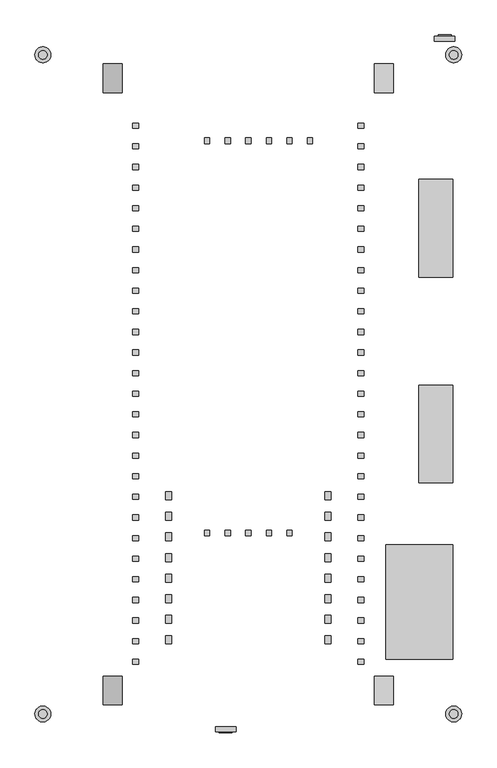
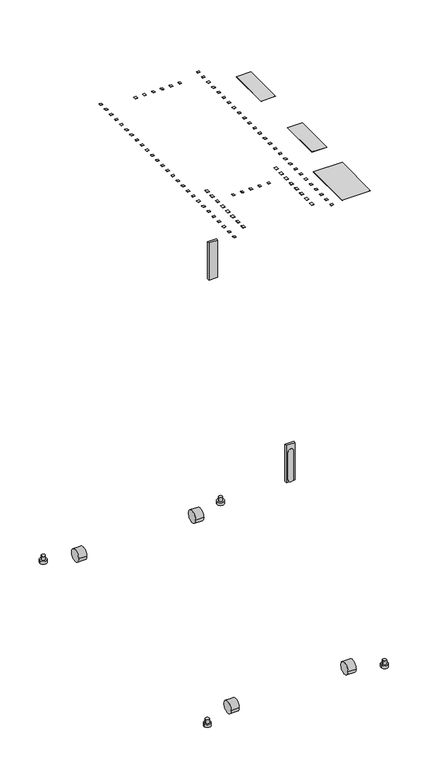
"""IFC4 building model written with IfcOpenShell, lengths in millimetres: proxy geometry, AR3350_NetShelter_SX_Series_Rack_Enclosure_Schneider_Electric_BIM_Model : AR3350 - NetShelter SX, 42U, 750mm Wide X 1200mm Depth."""

from ifc_helpers import new_model, si_unit, point, frame, frame_2d, origin, place, context, project, spatial, polyline, circle_curve, trimmed, segment, composite_curve, outline, extrude, source, transform, mapped, element, save
from ifc_brep_helpers import plane_surface, cylinder_surface, advanced_brep


def mechanical_equipment_0401260e(model_context):
    return source(origin(), model_context, "Body", "SolidModel", [
        extrude(outline(polyline([(241.5, -547.0), (241.5, -347.0), (358.5, -347.0), (358.5, -547.0), (241.5, -547.0)])), frame((0.0, 0.0, 1991.0), z_axis=(0.0, 0.0, 1.0), x_axis=(1.0, 0.0, 0.0)), (0.0, 0.0, 1.0), 1.0),
        extrude(outline(polyline([(358.5, -238.0), (298.5, -238.0), (298.5, -67.0), (358.5, -67.0), (358.5, -238.0)])), frame((0.0, 0.0, 1991.0), z_axis=(0.0, 0.0, 1.0), x_axis=(1.0, 0.0, 0.0)), (0.0, 0.0, 1.0), 1.0),
        extrude(outline(polyline([(358.5, 122.0), (298.5, 122.0), (298.5, 293.0), (358.5, 293.0), (358.5, 122.0)])), frame((0.0, 0.0, 1991.0), z_axis=(0.0, 0.0, 1.0), x_axis=(1.0, 0.0, 0.0)), (0.0, 0.0, 1.0), 1.0),
        extrude(outline(composite_curve([segment(trimmed(circle_curve(frame_2d((470.5, 25.0)), 25.0), [point((495.5, 25.0))], [point((445.5, 25.0))], False, "CARTESIAN"), True, "CONTINUOUS"), segment(trimmed(circle_curve(frame_2d((470.5, 25.0)), 25.0), [point((445.5, 25.0))], [point((495.5, 25.0))], False, "CARTESIAN"), True, "CONTINUOUS")], self_intersect=False)), frame((-254.0, 0.0, 0.0), z_axis=(1.0, 0.0, 0.0), x_axis=(0.0, 1.0, 0.0)), (0.0, 0.0, 1.0), 33.0),
        extrude(outline(composite_curve([segment(trimmed(circle_curve(frame_2d((470.5, 25.0)), 25.0), [point((495.5, 25.0))], [point((445.5, 25.0))], False, "CARTESIAN"), True, "CONTINUOUS"), segment(trimmed(circle_curve(frame_2d((470.5, 25.0)), 25.0), [point((445.5, 25.0))], [point((495.5, 25.0))], False, "CARTESIAN"), True, "CONTINUOUS")], self_intersect=False)), frame((221.0, 0.0, 0.0), z_axis=(1.0, 0.0, 0.0), x_axis=(0.0, 1.0, 0.0)), (0.0, 0.0, 1.0), 33.0),
        extrude(outline(composite_curve([segment(trimmed(circle_curve(frame_2d((-601.5, 25.0)), 25.0), [point((-626.5, 25.0))], [point((-576.5, 25.0))], False, "CARTESIAN"), True, "CONTINUOUS"), segment(trimmed(circle_curve(frame_2d((-601.5, 25.0)), 25.0), [point((-576.5, 25.0))], [point((-626.5, 25.0))], False, "CARTESIAN"), True, "CONTINUOUS")], self_intersect=False)), frame((-254.0, 0.0, 0.0), z_axis=(1.0, 0.0, 0.0), x_axis=(0.0, 1.0, 0.0)), (0.0, 0.0, 1.0), 33.0),
        extrude(outline(composite_curve([segment(trimmed(circle_curve(frame_2d((-601.5, 25.0)), 25.0), [point((-626.5, 25.0))], [point((-576.5, 25.0))], False, "CARTESIAN"), True, "CONTINUOUS"), segment(trimmed(circle_curve(frame_2d((-601.5, 25.0)), 25.0), [point((-576.5, 25.0))], [point((-626.5, 25.0))], False, "CARTESIAN"), True, "CONTINUOUS")], self_intersect=False)), frame((221.0, 0.0, 0.0), z_axis=(1.0, 0.0, 0.0), x_axis=(0.0, 1.0, 0.0)), (0.0, 0.0, 1.0), 33.0),
        advanced_brep(
        [(326.3368526, 544.0499756, 1123.0590115), (362.0, 544.0499756, 1123.0590115), (362.0, 544.0499756, 963.0), (347.3677154, 544.0499756, 963.0), (348.4393893, 544.0499756, 963.3154611), (350.3725006, 544.0499756, 964.3170777), (352.071341, 544.0499756, 965.6659795), (355.4225766, 544.0499756, 973.9455005), (355.4225766, 544.0499756, 979.9131415), (355.4225766, 544.0499756, 981.4978364), (355.4225766, 544.0499756, 1091.5384088), (332.9142777, 544.0499756, 1091.5384088), (332.9142777, 544.0499756, 981.4978364), (332.9142777, 544.0499756, 979.9131415), (332.9142777, 544.0499756, 973.9455005), (336.2655133, 544.0499756, 965.6659795), (337.9643537, 544.0499756, 964.3170777), (339.8974651, 544.0499756, 963.3154611), (340.969139, 544.0499756, 963.0), (326.3368526, 544.0499756, 963.0), (326.3368526, 535.0499756, 1123.0590115), (326.3368526, 535.0499756, 963.0), (362.0, 535.0499756, 963.0), (362.0, 535.0499756, 1123.0590115), (352.071341, 546.0499756, 965.6659795), (350.3725006, 546.0499756, 964.3170777), (348.4393893, 546.0499756, 963.3154611), (346.3450029, 546.0499756, 962.6989514), (344.1684272, 546.0499756, 962.4908285), (341.9918515, 546.0499756, 962.6989514), (339.8974651, 546.0499756, 963.3154611), (337.9643537, 546.0499756, 964.3170777), (336.2655133, 546.0499756, 965.6659795), (332.9142777, 546.0499756, 973.9455005), (332.9142777, 546.0499756, 979.9131415), (332.9142777, 546.0499756, 981.4978364), (332.9142777, 546.0499756, 1091.5384088), (355.4225766, 546.0499756, 1091.5384088), (355.4225766, 546.0499756, 981.4978364), (355.4225766, 546.0499756, 979.9131415), (355.4225766, 546.0499756, 973.9455005), (341.9918515, 544.0499756, 962.6989514), (344.1684272, 544.0499756, 962.4908285), (346.3450029, 544.0499756, 962.6989514)],
        [
            (0, 1),
            (1, 2),
            (2, 3),
            (3, 4),
            (4, 5),
            (5, 6),
            (6, 7, circle_curve(frame((342.9998766, 544.0499756, 974.1557506), z_axis=(0.0, -1.0, 0.0), x_axis=(-1.0, 0.0, 0.0)), 12.4244791)),
            (7, 8),
            (8, 9),
            (9, 10),
            (10, 11, circle_curve(frame((344.1684272, 544.0499756, 1091.5384088), z_axis=(0.0, -1.0, 0.0), x_axis=(-1.0, 0.0, 0.0)), 11.2541494)),
            (11, 12),
            (12, 13),
            (13, 14),
            (14, 15, circle_curve(frame((345.3369777, 544.0499756, 974.1557506), z_axis=(0.0, -1.0, 0.0), x_axis=(-1.0, 0.0, 0.0)), 12.4244791)),
            (15, 16),
            (16, 17),
            (17, 18),
            (18, 19),
            (19, 0),
            (20, 21),
            (21, 22),
            (22, 23),
            (23, 20),
            (0, 20),
            (23, 1),
            (22, 2),
            (21, 19),
            (18, 3),
            (24, 25),
            (25, 26),
            (26, 27),
            (27, 28),
            (28, 29),
            (29, 30),
            (30, 31),
            (31, 32),
            (32, 33, circle_curve(frame((345.3369777, 546.0499756, 974.1557506), z_axis=(0.0, 1.0, 0.0), x_axis=(-1.0, 0.0, 0.0)), 12.4244791)),
            (33, 34),
            (34, 35),
            (35, 36),
            (36, 37, circle_curve(frame((344.1684272, 546.0499756, 1091.5384088), z_axis=(0.0, 1.0, 0.0), x_axis=(-1.0, 0.0, 0.0)), 11.2541494)),
            (37, 38),
            (38, 39),
            (39, 40),
            (40, 24, circle_curve(frame((342.9998766, 546.0499756, 974.1557506), z_axis=(0.0, 1.0, 0.0), x_axis=(-1.0, 0.0, 0.0)), 12.4244791)),
            (41, 42),
            (42, 43),
            (43, 3),
            (18, 41),
            (24, 6),
            (5, 25),
            (4, 26),
            (43, 27),
            (42, 28),
            (41, 29),
            (17, 30),
            (16, 31),
            (15, 32),
            (14, 33),
            (13, 34),
            (12, 35),
            (11, 36),
            (10, 37),
            (9, 38),
            (8, 39),
            (7, 40),
        ],
        [
            plane_surface(frame((362.0, 544.0499756, 1123.0590115), z_axis=(0.0, 1.0, 0.0), x_axis=(1.0, 0.0, 0.0))),
            plane_surface(frame((362.0, 535.0499756, 1123.0590115), z_axis=(0.0, -1.0, 0.0), x_axis=(-1.0, 0.0, 0.0))),
            plane_surface(frame((326.3368526, 544.0499756, 1123.0590115), z_axis=(0.0, 0.0, 1.0), x_axis=(0.0, -1.0, 0.0))),
            plane_surface(frame((362.0, 544.0499756, 1123.0590115), z_axis=(1.0, 0.0, 0.0), x_axis=(0.0, -1.0, 0.0))),
            plane_surface(frame((362.0, 544.0499756, 963.0), z_axis=(0.0, 0.0, -1.0), x_axis=(0.0, -1.0, 0.0))),
            plane_surface(frame((326.3368526, 544.0499756, 963.0), z_axis=(-1.0, 0.0, 0.0), x_axis=(0.0, -1.0, 0.0))),
            plane_surface(frame((350.3725006, 546.0499756, 964.3170777), z_axis=(0.0, 1.0, 0.0), x_axis=(-0.7831506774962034, 0.0, -0.6218319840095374))),
            plane_surface(frame((350.3725006, 544.0499756, 964.3170777), z_axis=(0.0, -1.0, 0.0), x_axis=(0.7831506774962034, 0.0, 0.6218319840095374))),
            plane_surface(frame((352.071341, 546.0499756, 965.6659795), z_axis=(0.6218319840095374, 0.0, -0.7831506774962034), x_axis=(0.0, -1.0, 0.0))),
            plane_surface(frame((350.3725006, 546.0499756, 964.3170777), z_axis=(0.4600502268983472, 0.0, -0.8878928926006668), x_axis=(0.0, -1.0, 0.0))),
            plane_surface(frame((348.4393893, 546.0499756, 963.3154611), z_axis=(0.28238288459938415, 0.0, -0.9593017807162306), x_axis=(0.0, -1.0, 0.0))),
            plane_surface(frame((346.3450029, 546.0499756, 962.6989514), z_axis=(0.09518525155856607, 0.0, -0.9954595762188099), x_axis=(0.0, -1.0, 0.0))),
            plane_surface(frame((344.1684272, 546.0499756, 962.4908285), z_axis=(-0.09518525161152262, 0.0, -0.9954595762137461), x_axis=(0.0, -1.0, 0.0))),
            plane_surface(frame((341.9918515, 546.0499756, 962.6989514), z_axis=(-0.2823828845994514, 0.0, -0.9593017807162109), x_axis=(0.0, -1.0, 0.0))),
            plane_surface(frame((339.8974651, 546.0499756, 963.3154611), z_axis=(-0.4600502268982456, 0.0, -0.8878928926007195), x_axis=(0.0, -1.0, 0.0))),
            plane_surface(frame((337.9643537, 546.0499756, 964.3170777), z_axis=(-0.6218319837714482, 0.0, -0.7831506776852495), x_axis=(0.0, -1.0, 0.0))),
            cylinder_surface(frame((345.3369777, 544.0499756, 974.1557506), z_axis=(0.0, 1.0, 0.0), x_axis=(-1.0, 0.0, 0.0)), 12.4244791),
            plane_surface(frame((332.9142777, 546.0499756, 973.9455005), z_axis=(-1.0, 0.0, 0.0), x_axis=(0.0, -1.0, 0.0))),
            plane_surface(frame((332.9142777, 546.0499756, 979.9131415), z_axis=(-1.0, 0.0, 0.0), x_axis=(0.0, -1.0, 0.0))),
            plane_surface(frame((332.9142777, 546.0499756, 981.4978364), z_axis=(-1.0, 0.0, 0.0), x_axis=(0.0, -1.0, 0.0))),
            cylinder_surface(frame((344.1684272, 544.0499756, 1091.5384088), z_axis=(0.0, 1.0, 0.0), x_axis=(-1.0, 0.0, 0.0)), 11.2541494),
            plane_surface(frame((355.4225766, 546.0499756, 1091.5384088), z_axis=(1.0, 0.0, -1.3564306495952e-10), x_axis=(0.0, -1.0, 0.0))),
            plane_surface(frame((355.4225766, 546.0499756, 981.4978364), z_axis=(1.0, 0.0, 0.0), x_axis=(0.0, -1.0, 0.0))),
            plane_surface(frame((355.4225766, 546.0499756, 979.9131415), z_axis=(1.0, 0.0, 0.0), x_axis=(0.0, -1.0, 0.0))),
            cylinder_surface(frame((342.9998766, 544.0499756, 974.1557506), z_axis=(0.0, 1.0, 0.0), x_axis=(-1.0, 0.0, 0.0)), 12.4244791),
        ],
        [
            (0, [[1, 2, 3, 4, 5, 6, 7, 8, 9, 10, 11, 12, 13, 14, 15, 16, 17, 18, 19, 20]]),
            (1, [[21, 22, 23, 24]]),
            (2, [[-1, 25, -24, 26]]),
            (3, [[-2, -26, -23, 27]]),
            (4, [[-22, 28, -19, 29, -3, -27]]),
            (5, [[-20, -28, -21, -25]]),
            (6, [[30, 31, 32, 33, 34, 35, 36, 37, 38, 39, 40, 41, 42, 43, 44, 45, 46]]),
            (7, [[47, 48, 49, -29, 50]]),
            (8, [[-30, 51, -6, 52]]),
            (9, [[-31, -52, -5, 53]]),
            (10, [[-32, -53, -4, -49, 54]]),
            (11, [[-33, -54, -48, 55]]),
            (12, [[-34, -55, -47, 56]]),
            (13, [[-35, -56, -50, -18, 57]]),
            (14, [[-36, -57, -17, 58]]),
            (15, [[-37, -58, -16, 59]]),
            (16, [[-38, -59, -15, 60]]),
            (17, [[-39, -60, -14, 61]]),
            (18, [[-40, -61, -13, 62]]),
            (19, [[-41, -62, -12, 63]]),
            (20, [[-42, -63, -11, 64]]),
            (21, [[-43, -64, -10, 65]]),
            (22, [[-44, -65, -9, 66]]),
            (23, [[-45, -66, -8, 67]]),
            (24, [[-46, -67, -7, -51]]),
        ],
    ),
        extrude(outline(composite_curve([segment(trimmed(circle_curve(frame_2d((360.0, 511.5)), 7.5), [point((367.5, 511.5))], [point((352.5, 511.5))], False, "CARTESIAN"), True, "CONTINUOUS"), segment(trimmed(circle_curve(frame_2d((360.0, 511.5)), 7.5), [point((352.5, 511.5))], [point((367.5, 511.5))], False, "CARTESIAN"), True, "CONTINUOUS")], self_intersect=False)), frame((0.0, 0.0, 21.0), z_axis=(0.0, 0.0, 1.0), x_axis=(1.0, 0.0, 0.0)), (0.0, 0.0, 1.0), 16.0),
        extrude(outline(composite_curve([segment(trimmed(circle_curve(frame_2d((360.0, 511.5)), 14.0), [point((374.0, 511.5))], [point((346.0, 511.5))], False, "CARTESIAN"), True, "CONTINUOUS"), segment(trimmed(circle_curve(frame_2d((360.0, 511.5)), 14.0), [point((346.0, 511.5))], [point((374.0, 511.5))], False, "CARTESIAN"), True, "CONTINUOUS")], self_intersect=False)), frame((0.0, 0.0, 9.0), z_axis=(0.0, 0.0, 1.0), x_axis=(1.0, 0.0, 0.0)), (0.0, 0.0, 1.0), 12.0),
        extrude(outline(composite_curve([segment(trimmed(circle_curve(frame_2d((-360.0, 511.5)), 7.5), [point((-367.5, 511.5))], [point((-352.5, 511.5))], False, "CARTESIAN"), True, "CONTINUOUS"), segment(trimmed(circle_curve(frame_2d((-360.0, 511.5)), 7.5), [point((-352.5, 511.5))], [point((-367.5, 511.5))], False, "CARTESIAN"), True, "CONTINUOUS")], self_intersect=False)), frame((0.0, 0.0, 21.0), z_axis=(0.0, 0.0, 1.0), x_axis=(1.0, 0.0, 0.0)), (0.0, 0.0, 1.0), 16.0),
        extrude(outline(composite_curve([segment(trimmed(circle_curve(frame_2d((-360.0, 511.5)), 14.0), [point((-374.0, 511.5))], [point((-346.0, 511.5))], False, "CARTESIAN"), True, "CONTINUOUS"), segment(trimmed(circle_curve(frame_2d((-360.0, 511.5)), 14.0), [point((-346.0, 511.5))], [point((-374.0, 511.5))], False, "CARTESIAN"), True, "CONTINUOUS")], self_intersect=False)), frame((0.0, 0.0, 9.0), z_axis=(0.0, 0.0, 1.0), x_axis=(1.0, 0.0, 0.0)), (0.0, 0.0, 1.0), 12.0),
        extrude(outline(composite_curve([segment(trimmed(circle_curve(frame_2d((360.0, -642.5)), 7.5), [point((367.5, -642.5))], [point((352.5, -642.5))], False, "CARTESIAN"), True, "CONTINUOUS"), segment(trimmed(circle_curve(frame_2d((360.0, -642.5)), 7.5), [point((352.5, -642.5))], [point((367.5, -642.5))], False, "CARTESIAN"), True, "CONTINUOUS")], self_intersect=False)), frame((0.0, 0.0, 21.0), z_axis=(0.0, 0.0, 1.0), x_axis=(1.0, 0.0, 0.0)), (0.0, 0.0, 1.0), 16.0),
        extrude(outline(composite_curve([segment(trimmed(circle_curve(frame_2d((360.0, -642.5)), 14.0), [point((374.0, -642.5))], [point((346.0, -642.5))], False, "CARTESIAN"), True, "CONTINUOUS"), segment(trimmed(circle_curve(frame_2d((360.0, -642.5)), 14.0), [point((346.0, -642.5))], [point((374.0, -642.5))], False, "CARTESIAN"), True, "CONTINUOUS")], self_intersect=False)), frame((0.0, 0.0, 9.0), z_axis=(0.0, 0.0, 1.0), x_axis=(1.0, 0.0, 0.0)), (0.0, 0.0, 1.0), 12.0),
        advanced_brep(
        [(-367.5, -642.5, 37.0), (-352.5, -642.5, 37.0), (-352.5, -642.5, 21.0), (-367.5, -642.5, 21.0), (-374.0, -642.5, 21.0), (-346.0, -642.5, 21.0), (-374.0, -642.5, 9.0), (-346.0, -642.5, 9.0)],
        [
            (0, 1, circle_curve(frame((-360.0, -642.5, 37.0), z_axis=(0.0, 0.0, 1.0), x_axis=(1.0, 0.0, 0.0)), 7.5)),
            (1, 0, circle_curve(frame((-360.0, -642.5, 37.0), z_axis=(0.0, 0.0, 1.0), x_axis=(1.0, 0.0, 0.0)), 7.5)),
            (1, 2),
            (2, 3, circle_curve(frame((-360.0, -642.5, 21.0), z_axis=(0.0, 0.0, 1.0), x_axis=(1.0, 0.0, 0.0)), 7.5)),
            (3, 0),
            (3, 2, circle_curve(frame((-360.0, -642.5, 21.0), z_axis=(0.0, 0.0, 1.0), x_axis=(1.0, 0.0, 0.0)), 7.5)),
            (4, 5, circle_curve(frame((-360.0, -642.5, 21.0), z_axis=(0.0, 0.0, 1.0), x_axis=(1.0, 0.0, 0.0)), 14.0)),
            (5, 4, circle_curve(frame((-360.0, -642.5, 21.0), z_axis=(0.0, 0.0, 1.0), x_axis=(1.0, 0.0, 0.0)), 14.0)),
            (6, 7, circle_curve(frame((-360.0, -642.5, 9.0), z_axis=(0.0, 0.0, -1.0), x_axis=(1.0, 0.0, 0.0)), 14.0)),
            (7, 6, circle_curve(frame((-360.0, -642.5, 9.0), z_axis=(0.0, 0.0, -1.0), x_axis=(1.0, 0.0, 0.0)), 14.0)),
            (5, 7),
            (6, 4),
        ],
        [
            plane_surface(frame((-352.5, -642.5, 37.0), z_axis=(0.0, 0.0, 1.0), x_axis=(0.0, -1.0, 0.0))),
            cylinder_surface(frame((-360.0, -642.5, 21.0), z_axis=(0.0, 0.0, 1.0), x_axis=(1.0, 0.0, 0.0)), 7.5),
            plane_surface(frame((-346.0, -642.5, 21.0), z_axis=(0.0, 0.0, 1.0), x_axis=(0.0, -1.0, 0.0))),
            plane_surface(frame((-346.0, -642.5, 9.0), z_axis=(0.0, 0.0, -1.0), x_axis=(0.0, 1.0, 0.0))),
            cylinder_surface(frame((-360.0, -642.5, 9.0), z_axis=(0.0, 0.0, 1.0), x_axis=(1.0, 0.0, 0.0)), 14.0),
        ],
        [
            (0, [[1, 2]]),
            (1, [[3, 4, 5, -2]]),
            (1, [[-5, 6, -3, -1]]),
            (2, [[7, 8], [-6, -4]]),
            (3, [[9, 10]]),
            (4, [[11, -9, 12, -8]]),
            (4, [[-12, -10, -11, -7]]),
        ],
    ),
        advanced_brep(
        [(-57.4775271, -673.9999881, 1122.0590115), (-57.4775271, -673.9999881, 962.0), (-42.8452407, -673.9999881, 962.0), (-43.9169146, -673.9999881, 962.3154611), (-45.8500259, -673.9999881, 963.3170777), (-47.5488663, -673.9999881, 964.6659795), (-50.900102, -673.9999881, 972.9455005), (-50.900102, -673.9999881, 978.9131415), (-50.900102, -673.9999881, 980.4978364), (-50.900102, -673.9999881, 1090.5384088), (-28.391803, -673.9999881, 1090.5384088), (-28.3918031, -673.9999881, 980.4978364), (-28.3918031, -673.9999881, 978.9131415), (-28.3918031, -673.9999881, 972.9455005), (-31.7430387, -673.9999881, 964.6659794), (-33.4418791, -673.9999881, 963.3170777), (-35.3749904, -673.9999881, 962.3154611), (-36.4466643, -673.9999881, 962.0), (-21.8143797, -673.9999881, 962.0), (-21.8143797, -673.9999881, 1122.0590115), (-57.4775271, -664.9999881, 1122.0590115), (-21.8143797, -664.9999881, 1122.0590115), (-21.8143797, -664.9999881, 962.0), (-57.4775271, -664.9999881, 962.0), (-31.7430387, -675.9999881, 964.6659794), (-28.3918031, -675.9999881, 972.9455005), (-28.3918031, -675.9999881, 978.9131415), (-28.3918031, -675.9999881, 980.4978364), (-28.391803, -675.9999881, 1090.5384088), (-50.9001019, -675.9999881, 1090.5384088), (-50.900102, -675.9999881, 980.4978364), (-50.900102, -675.9999881, 978.9131415), (-50.900102, -675.9999881, 972.9455005), (-47.5488663, -675.9999881, 964.6659795), (-45.8500259, -675.9999881, 963.3170777), (-43.9169146, -675.9999881, 962.3154611), (-41.8225282, -675.9999881, 961.6989514), (-39.6459525, -675.9999881, 961.4908285), (-37.4693768, -675.9999881, 961.6989514), (-35.3749904, -675.9999881, 962.3154611), (-33.4418791, -675.9999881, 963.3170777), (-41.8225282, -673.9999881, 961.6989514), (-37.4693768, -673.9999881, 961.6989514), (-39.6459525, -673.9999881, 961.4908285)],
        [
            (0, 1),
            (1, 2),
            (2, 3),
            (3, 4),
            (4, 5),
            (5, 6, circle_curve(frame((-38.477402, -673.9999881, 973.1557506), z_axis=(0.0, 1.0, 0.0), x_axis=(-1.0, 0.0, 0.0)), 12.4244791)),
            (6, 7),
            (7, 8),
            (8, 9),
            (9, 10, circle_curve(frame((-39.6459525, -673.9999881, 1090.5384088), z_axis=(0.0, 1.0, 0.0), x_axis=(-1.0, 0.0, 0.0)), 11.2541494)),
            (10, 11),
            (11, 12),
            (12, 13),
            (13, 14, circle_curve(frame((-40.814503, -673.9999881, 973.1557506), z_axis=(0.0, 1.0, 0.0), x_axis=(-1.0, 0.0, 0.0)), 12.4244791)),
            (14, 15),
            (15, 16),
            (16, 17),
            (17, 18),
            (18, 19),
            (19, 0),
            (20, 21),
            (21, 22),
            (22, 23),
            (23, 20),
            (19, 21),
            (20, 0),
            (18, 22),
            (17, 2),
            (1, 23),
            (24, 25, circle_curve(frame((-40.814503, -675.9999881, 973.1557506), z_axis=(0.0, -1.0, 0.0), x_axis=(-1.0, 0.0, 0.0)), 12.4244791)),
            (25, 26),
            (26, 27),
            (27, 28),
            (28, 29, circle_curve(frame((-39.6459525, -675.9999881, 1090.5384088), z_axis=(0.0, -1.0, 0.0), x_axis=(-1.0, 0.0, 0.0)), 11.2541494)),
            (29, 30),
            (30, 31),
            (31, 32),
            (32, 33, circle_curve(frame((-38.477402, -675.9999881, 973.1557506), z_axis=(0.0, -1.0, 0.0), x_axis=(-1.0, 0.0, 0.0)), 12.4244791)),
            (33, 34),
            (34, 35),
            (35, 36),
            (36, 37),
            (37, 38),
            (38, 39),
            (39, 40),
            (40, 24),
            (41, 2),
            (17, 42),
            (42, 43),
            (43, 41),
            (40, 15),
            (14, 24),
            (39, 16),
            (38, 42),
            (37, 43),
            (36, 41),
            (35, 3),
            (34, 4),
            (33, 5),
            (32, 6),
            (31, 7),
            (30, 8),
            (29, 9),
            (28, 10),
            (27, 11),
            (26, 12),
            (25, 13),
        ],
        [
            plane_surface(frame((-21.8143797, -673.9999881, 1122.0590115), z_axis=(0.0, -1.0, 0.0), x_axis=(1.0, 0.0, 0.0))),
            plane_surface(frame((-21.8143797, -664.9999881, 1122.0590115), z_axis=(0.0, 1.0, 0.0), x_axis=(-1.0, 0.0, 0.0))),
            plane_surface(frame((-57.4775271, -673.9999881, 1122.0590115), z_axis=(0.0, 0.0, 1.0), x_axis=(0.0, 1.0, 0.0))),
            plane_surface(frame((-21.8143797, -673.9999881, 1122.0590115), z_axis=(1.0, 0.0, 0.0), x_axis=(0.0, 1.0, 0.0))),
            plane_surface(frame((-21.8143797, -673.9999881, 962.0), z_axis=(0.0, 0.0, -1.0), x_axis=(0.0, 1.0, 0.0))),
            plane_surface(frame((-57.4775271, -673.9999881, 962.0), z_axis=(-1.0, 0.0, 0.0), x_axis=(0.0, 1.0, 0.0))),
            plane_surface(frame((-33.4418791, -675.9999881, 963.3170777), z_axis=(0.0, -1.0, 0.0), x_axis=(-0.7831506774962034, 0.0, -0.6218319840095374))),
            plane_surface(frame((-33.4418791, -673.9999881, 963.3170777), z_axis=(0.0, 1.0, 0.0), x_axis=(0.7831506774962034, 0.0, 0.6218319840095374))),
            plane_surface(frame((-31.7430387, -675.9999881, 964.6659794), z_axis=(0.6218319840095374, 0.0, -0.7831506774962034), x_axis=(0.0, 1.0, 0.0))),
            plane_surface(frame((-33.4418791, -675.9999881, 963.3170777), z_axis=(0.4600502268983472, 0.0, -0.8878928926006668), x_axis=(0.0, 1.0, 0.0))),
            plane_surface(frame((-35.3749904, -675.9999881, 962.3154611), z_axis=(0.28238288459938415, 0.0, -0.9593017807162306), x_axis=(0.0, 1.0, 0.0))),
            plane_surface(frame((-37.4693768, -675.9999881, 961.6989514), z_axis=(0.09518525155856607, 0.0, -0.9954595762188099), x_axis=(0.0, 1.0, 0.0))),
            plane_surface(frame((-39.6459525, -675.9999881, 961.4908285), z_axis=(-0.09518525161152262, 0.0, -0.9954595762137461), x_axis=(0.0, 1.0, 0.0))),
            plane_surface(frame((-41.8225282, -675.9999881, 961.6989514), z_axis=(-0.2823828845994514, 0.0, -0.9593017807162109), x_axis=(0.0, 1.0, 0.0))),
            plane_surface(frame((-43.9169146, -675.9999881, 962.3154611), z_axis=(-0.4600502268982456, 0.0, -0.8878928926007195), x_axis=(0.0, 1.0, 0.0))),
            plane_surface(frame((-45.8500259, -675.9999881, 963.3170777), z_axis=(-0.6218319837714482, 0.0, -0.7831506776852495), x_axis=(0.0, 1.0, 0.0))),
            cylinder_surface(frame((-38.477402, -673.9999881, 973.1557506), z_axis=(0.0, -1.0, 0.0), x_axis=(-1.0, 0.0, 0.0)), 12.4244791),
            plane_surface(frame((-50.900102, -675.9999881, 972.9455005), z_axis=(-1.0, 0.0, 0.0), x_axis=(0.0, 1.0, 0.0))),
            plane_surface(frame((-50.900102, -675.9999881, 978.9131415), z_axis=(-1.0, 0.0, 0.0), x_axis=(0.0, 1.0, 0.0))),
            plane_surface(frame((-50.900102, -675.9999881, 980.4978364), z_axis=(-1.0, 0.0, 0.0), x_axis=(0.0, 1.0, 0.0))),
            cylinder_surface(frame((-39.6459525, -673.9999881, 1090.5384088), z_axis=(0.0, -1.0, 0.0), x_axis=(-1.0, 0.0, 0.0)), 11.2541494),
            plane_surface(frame((-28.391803, -675.9999881, 1090.5384088), z_axis=(1.0, 0.0, -1.3564306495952e-10), x_axis=(0.0, 1.0, 0.0))),
            plane_surface(frame((-28.3918031, -675.9999881, 980.4978364), z_axis=(1.0, 0.0, 0.0), x_axis=(0.0, 1.0, 0.0))),
            plane_surface(frame((-28.3918031, -675.9999881, 978.9131415), z_axis=(1.0, 0.0, 0.0), x_axis=(0.0, 1.0, 0.0))),
            cylinder_surface(frame((-40.814503, -673.9999881, 973.1557506), z_axis=(0.0, -1.0, 0.0), x_axis=(-1.0, 0.0, 0.0)), 12.4244791),
        ],
        [
            (0, [[1, 2, 3, 4, 5, 6, 7, 8, 9, 10, 11, 12, 13, 14, 15, 16, 17, 18, 19, 20]]),
            (1, [[21, 22, 23, 24]]),
            (2, [[25, -21, 26, -20]]),
            (3, [[27, -22, -25, -19]]),
            (4, [[-27, -18, 28, -2, 29, -23]]),
            (5, [[-26, -24, -29, -1]]),
            (6, [[30, 31, 32, 33, 34, 35, 36, 37, 38, 39, 40, 41, 42, 43, 44, 45, 46]]),
            (7, [[47, -28, 48, 49, 50]]),
            (8, [[51, -15, 52, -46]]),
            (9, [[53, -16, -51, -45]]),
            (10, [[54, -48, -17, -53, -44]]),
            (11, [[55, -49, -54, -43]]),
            (12, [[56, -50, -55, -42]]),
            (13, [[57, -3, -47, -56, -41]]),
            (14, [[58, -4, -57, -40]]),
            (15, [[59, -5, -58, -39]]),
            (16, [[60, -6, -59, -38]]),
            (17, [[61, -7, -60, -37]]),
            (18, [[62, -8, -61, -36]]),
            (19, [[63, -9, -62, -35]]),
            (20, [[64, -10, -63, -34]]),
            (21, [[65, -11, -64, -33]]),
            (22, [[66, -12, -65, -32]]),
            (23, [[67, -13, -66, -31]]),
            (24, [[-52, -14, -67, -30]]),
        ],
    ),
        extrude(outline(polyline([(-202.5000006, -519.9066986), (-202.5000006, -510.9066952), (-192.4999952, -510.9066952), (-192.4999952, -519.9066986), (-202.5000006, -519.9066986)])), frame((0.0, 0.0, 1991.0), z_axis=(0.0, 0.0, 1.0), x_axis=(1.0, 0.0, 0.0)), (0.0, 0.0, 1.0), 1.0),
        extrude(outline(polyline([(192.4999952, -519.9066986), (192.4999952, -510.9066952), (202.5000006, -510.9066952), (202.5000006, -519.9066986), (192.4999952, -519.9066986)])), frame((0.0, 0.0, 1991.0), z_axis=(0.0, 0.0, 1.0), x_axis=(1.0, 0.0, 0.0)), (0.0, 0.0, 1.0), 1.0),
        extrude(outline(polyline([(-202.5000006, -483.8133972), (-202.5000006, -474.8133938), (-192.4999952, -474.8133938), (-192.4999952, -483.8133972), (-202.5000006, -483.8133972)])), frame((0.0, 0.0, 1991.0), z_axis=(0.0, 0.0, 1.0), x_axis=(1.0, 0.0, 0.0)), (0.0, 0.0, 1.0), 1.0),
        extrude(outline(polyline([(192.4999952, -483.8133972), (192.4999952, -474.8133938), (202.5000006, -474.8133938), (202.5000006, -483.8133972), (192.4999952, -483.8133972)])), frame((0.0, 0.0, 1991.0), z_axis=(0.0, 0.0, 1.0), x_axis=(1.0, 0.0, 0.0)), (0.0, 0.0, 1.0), 1.0),
        extrude(outline(polyline([(-202.5000006, -447.7200957), (-202.5000006, -438.7200924), (-192.4999952, -438.7200924), (-192.4999952, -447.7200957), (-202.5000006, -447.7200957)])), frame((0.0, 0.0, 1991.0), z_axis=(0.0, 0.0, 1.0), x_axis=(1.0, 0.0, 0.0)), (0.0, 0.0, 1.0), 1.0),
        extrude(outline(polyline([(192.4999952, -447.7200957), (192.4999952, -438.7200924), (202.5000006, -438.7200924), (202.5000006, -447.7200957), (192.4999952, -447.7200957)])), frame((0.0, 0.0, 1991.0), z_axis=(0.0, 0.0, 1.0), x_axis=(1.0, 0.0, 0.0)), (0.0, 0.0, 1.0), 1.0),
        extrude(outline(polyline([(-202.5000006, -411.6267943), (-202.5000006, -402.626791), (-192.4999952, -402.626791), (-192.4999952, -411.6267943), (-202.5000006, -411.6267943)])), frame((0.0, 0.0, 1991.0), z_axis=(0.0, 0.0, 1.0), x_axis=(1.0, 0.0, 0.0)), (0.0, 0.0, 1.0), 1.0),
        extrude(outline(polyline([(192.4999952, -411.6267943), (192.4999952, -402.626791), (202.5000006, -402.626791), (202.5000006, -411.6267943), (192.4999952, -411.6267943)])), frame((0.0, 0.0, 1991.0), z_axis=(0.0, 0.0, 1.0), x_axis=(1.0, 0.0, 0.0)), (0.0, 0.0, 1.0), 1.0),
        extrude(outline(polyline([(-202.5000006, -375.5334929), (-202.5000006, -366.5334896), (-192.4999952, -366.5334896), (-192.4999952, -375.5334929), (-202.5000006, -375.5334929)])), frame((0.0, 0.0, 1991.0), z_axis=(0.0, 0.0, 1.0), x_axis=(1.0, 0.0, 0.0)), (0.0, 0.0, 1.0), 1.0),
        extrude(outline(polyline([(192.4999952, -375.5334929), (192.4999952, -366.5334896), (202.5000006, -366.5334896), (202.5000006, -375.5334929), (192.4999952, -375.5334929)])), frame((0.0, 0.0, 1991.0), z_axis=(0.0, 0.0, 1.0), x_axis=(1.0, 0.0, 0.0)), (0.0, 0.0, 1.0), 1.0),
        extrude(outline(polyline([(-202.5000006, -339.4401915), (-202.5000006, -330.4401881), (-192.4999952, -330.4401881), (-192.4999952, -339.4401915), (-202.5000006, -339.4401915)])), frame((0.0, 0.0, 1991.0), z_axis=(0.0, 0.0, 1.0), x_axis=(1.0, 0.0, 0.0)), (0.0, 0.0, 1.0), 1.0),
        extrude(outline(polyline([(192.4999952, -339.4401915), (192.4999952, -330.4401881), (202.5000006, -330.4401881), (202.5000006, -339.4401915), (192.4999952, -339.4401915)])), frame((0.0, 0.0, 1991.0), z_axis=(0.0, 0.0, 1.0), x_axis=(1.0, 0.0, 0.0)), (0.0, 0.0, 1.0), 1.0),
        extrude(outline(polyline([(-202.5000006, -303.3468901), (-202.5000006, -294.3468867), (-192.4999952, -294.3468867), (-192.4999952, -303.3468901), (-202.5000006, -303.3468901)])), frame((0.0, 0.0, 1991.0), z_axis=(0.0, 0.0, 1.0), x_axis=(1.0, 0.0, 0.0)), (0.0, 0.0, 1.0), 1.0),
        extrude(outline(polyline([(192.4999952, -303.3468901), (192.4999952, -294.3468867), (202.5000006, -294.3468867), (202.5000006, -303.3468901), (192.4999952, -303.3468901)])), frame((0.0, 0.0, 1991.0), z_axis=(0.0, 0.0, 1.0), x_axis=(1.0, 0.0, 0.0)), (0.0, 0.0, 1.0), 1.0),
        extrude(outline(polyline([(-202.5000006, -267.2535886), (-202.5000006, -258.2535853), (-192.4999952, -258.2535853), (-192.4999952, -267.2535886), (-202.5000006, -267.2535886)])), frame((0.0, 0.0, 1991.0), z_axis=(0.0, 0.0, 1.0), x_axis=(1.0, 0.0, 0.0)), (0.0, 0.0, 1.0), 1.0),
        extrude(outline(polyline([(192.4999952, -267.2535886), (192.4999952, -258.2535853), (202.5000006, -258.2535853), (202.5000006, -267.2535886), (192.4999952, -267.2535886)])), frame((0.0, 0.0, 1991.0), z_axis=(0.0, 0.0, 1.0), x_axis=(1.0, 0.0, 0.0)), (0.0, 0.0, 1.0), 1.0),
        extrude(outline(polyline([(-134.7000003, -519.9992911), (-144.5000023, -519.9992911), (-144.5000023, -505.9992925), (-134.7000003, -505.9992925), (-134.7000003, -519.9992911)])), frame((0.0, 0.0, 1991.0), z_axis=(0.0, 0.0, 1.0), x_axis=(1.0, 0.0, 0.0)), (0.0, 0.0, 1.0), 1.0),
        extrude(outline(polyline([(144.5000023, -519.9992911), (134.7000003, -519.9992911), (134.7000003, -505.9992925), (144.5000023, -505.9992925), (144.5000023, -519.9992911)])), frame((0.0, 0.0, 1991.0), z_axis=(0.0, 0.0, 1.0), x_axis=(1.0, 0.0, 0.0)), (0.0, 0.0, 1.0), 1.0),
        extrude(outline(polyline([(-134.7000003, -483.9985822), (-144.5000023, -483.9985822), (-144.5000023, -469.9985836), (-134.7000003, -469.9985836), (-134.7000003, -483.9985822)])), frame((0.0, 0.0, 1991.0), z_axis=(0.0, 0.0, 1.0), x_axis=(1.0, 0.0, 0.0)), (0.0, 0.0, 1.0), 1.0),
        extrude(outline(polyline([(144.5000023, -483.9985822), (134.7000003, -483.9985822), (134.7000003, -469.9985836), (144.5000023, -469.9985836), (144.5000023, -483.9985822)])), frame((0.0, 0.0, 1991.0), z_axis=(0.0, 0.0, 1.0), x_axis=(1.0, 0.0, 0.0)), (0.0, 0.0, 1.0), 1.0),
        extrude(outline(polyline([(-134.7000003, -447.9978733), (-144.5000023, -447.9978733), (-144.5000023, -433.9978747), (-134.7000003, -433.9978747), (-134.7000003, -447.9978733)])), frame((0.0, 0.0, 1991.0), z_axis=(0.0, 0.0, 1.0), x_axis=(1.0, 0.0, 0.0)), (0.0, 0.0, 1.0), 1.0),
        extrude(outline(polyline([(144.5000023, -447.9978733), (134.7000003, -447.9978733), (134.7000003, -433.9978747), (144.5000023, -433.9978747), (144.5000023, -447.9978733)])), frame((0.0, 0.0, 1991.0), z_axis=(0.0, 0.0, 1.0), x_axis=(1.0, 0.0, 0.0)), (0.0, 0.0, 1.0), 1.0),
        extrude(outline(polyline([(-134.7000003, -411.9971643), (-144.5000023, -411.9971643), (-144.5000023, -397.9971658), (-134.7000003, -397.9971658), (-134.7000003, -411.9971643)])), frame((0.0, 0.0, 1991.0), z_axis=(0.0, 0.0, 1.0), x_axis=(1.0, 0.0, 0.0)), (0.0, 0.0, 1.0), 1.0),
        extrude(outline(polyline([(144.5000023, -411.9971643), (134.7000003, -411.9971643), (134.7000003, -397.9971658), (144.5000023, -397.9971658), (144.5000023, -411.9971643)])), frame((0.0, 0.0, 1991.0), z_axis=(0.0, 0.0, 1.0), x_axis=(1.0, 0.0, 0.0)), (0.0, 0.0, 1.0), 1.0),
        extrude(outline(polyline([(-134.7000003, -375.9964554), (-144.5000023, -375.9964554), (-144.5000023, -361.9964569), (-134.7000003, -361.9964569), (-134.7000003, -375.9964554)])), frame((0.0, 0.0, 1991.0), z_axis=(0.0, 0.0, 1.0), x_axis=(1.0, 0.0, 0.0)), (0.0, 0.0, 1.0), 1.0),
        extrude(outline(polyline([(144.5000023, -375.9964554), (134.7000003, -375.9964554), (134.7000003, -361.9964569), (144.5000023, -361.9964569), (144.5000023, -375.9964554)])), frame((0.0, 0.0, 1991.0), z_axis=(0.0, 0.0, 1.0), x_axis=(1.0, 0.0, 0.0)), (0.0, 0.0, 1.0), 1.0),
        extrude(outline(polyline([(-134.7000003, -339.9957465), (-144.5000023, -339.9957465), (-144.5000023, -325.9957479), (-134.7000003, -325.9957479), (-134.7000003, -339.9957465)])), frame((0.0, 0.0, 1991.0), z_axis=(0.0, 0.0, 1.0), x_axis=(1.0, 0.0, 0.0)), (0.0, 0.0, 1.0), 1.0),
        extrude(outline(polyline([(144.5000023, -339.9957465), (134.7000003, -339.9957465), (134.7000003, -325.9957479), (144.5000023, -325.9957479), (144.5000023, -339.9957465)])), frame((0.0, 0.0, 1991.0), z_axis=(0.0, 0.0, 1.0), x_axis=(1.0, 0.0, 0.0)), (0.0, 0.0, 1.0), 1.0),
        extrude(outline(polyline([(-134.7000003, -303.9950376), (-144.5000023, -303.9950376), (-144.5000023, -289.995039), (-134.7000003, -289.995039), (-134.7000003, -303.9950376)])), frame((0.0, 0.0, 1991.0), z_axis=(0.0, 0.0, 1.0), x_axis=(1.0, 0.0, 0.0)), (0.0, 0.0, 1.0), 1.0),
        extrude(outline(polyline([(144.5000023, -303.9950376), (134.7000003, -303.9950376), (134.7000003, -289.995039), (144.5000023, -289.995039), (144.5000023, -303.9950376)])), frame((0.0, 0.0, 1991.0), z_axis=(0.0, 0.0, 1.0), x_axis=(1.0, 0.0, 0.0)), (0.0, 0.0, 1.0), 1.0),
        extrude(outline(polyline([(-134.7000003, -267.9943287), (-144.5000023, -267.9943287), (-144.5000023, -253.9943301), (-134.7000003, -253.9943301), (-134.7000003, -267.9943287)])), frame((0.0, 0.0, 1991.0), z_axis=(0.0, 0.0, 1.0), x_axis=(1.0, 0.0, 0.0)), (0.0, 0.0, 1.0), 1.0),
        extrude(outline(polyline([(144.5000023, -267.9943287), (134.7000003, -267.9943287), (134.7000003, -253.9943301), (144.5000023, -253.9943301), (144.5000023, -267.9943287)])), frame((0.0, 0.0, 1991.0), z_axis=(0.0, 0.0, 1.0), x_axis=(1.0, 0.0, 0.0)), (0.0, 0.0, 1.0), 1.0),
        extrude(outline(polyline([(76.4999998, 365.919142), (76.4999998, 355.9191515), (67.5000039, 355.9191515), (67.5000039, 365.919142), (76.4999998, 365.919142)])), frame((0.0, 0.0, 1991.0), z_axis=(0.0, 0.0, 1.0), x_axis=(1.0, 0.0, 0.0)), (0.0, 0.0, 1.0), 1.0),
        extrude(outline(polyline([(76.4999998, -321.0808645), (76.4999998, -331.0808549), (67.5000039, -331.0808549), (67.5000039, -321.0808645), (76.4999998, -321.0808645)])), frame((0.0, 0.0, 1991.0), z_axis=(0.0, 0.0, 1.0), x_axis=(1.0, 0.0, 0.0)), (0.0, 0.0, 1.0), 1.0),
        extrude(outline(polyline([(-202.5000006, -231.1602872), (-202.5000006, -222.1602839), (-192.4999952, -222.1602839), (-192.4999952, -231.1602872), (-202.5000006, -231.1602872)])), frame((0.0, 0.0, 1991.0), z_axis=(0.0, 0.0, 1.0), x_axis=(1.0, 0.0, 0.0)), (0.0, 0.0, 1.0), 1.0),
        extrude(outline(polyline([(192.4999952, -231.1602872), (192.4999952, -222.1602839), (202.5000006, -222.1602839), (202.5000006, -231.1602872), (192.4999952, -231.1602872)])), frame((0.0, 0.0, 1991.0), z_axis=(0.0, 0.0, 1.0), x_axis=(1.0, 0.0, 0.0)), (0.0, 0.0, 1.0), 1.0),
        extrude(outline(polyline([(-202.5000006, -195.0669858), (-202.5000006, -186.0669825), (-192.4999952, -186.0669825), (-192.4999952, -195.0669858), (-202.5000006, -195.0669858)])), frame((0.0, 0.0, 1991.0), z_axis=(0.0, 0.0, 1.0), x_axis=(1.0, 0.0, 0.0)), (0.0, 0.0, 1.0), 1.0),
        extrude(outline(polyline([(192.4999952, -195.0669858), (192.4999952, -186.0669825), (202.5000006, -186.0669825), (202.5000006, -195.0669858), (192.4999952, -195.0669858)])), frame((0.0, 0.0, 1991.0), z_axis=(0.0, 0.0, 1.0), x_axis=(1.0, 0.0, 0.0)), (0.0, 0.0, 1.0), 1.0),
        extrude(outline(polyline([(-202.5000006, -158.9736844), (-202.5000006, -149.9736811), (-192.4999952, -149.9736811), (-192.4999952, -158.9736844), (-202.5000006, -158.9736844)])), frame((0.0, 0.0, 1991.0), z_axis=(0.0, 0.0, 1.0), x_axis=(1.0, 0.0, 0.0)), (0.0, 0.0, 1.0), 1.0),
        extrude(outline(polyline([(192.4999952, -158.9736844), (192.4999952, -149.9736811), (202.5000006, -149.9736811), (202.5000006, -158.9736844), (192.4999952, -158.9736844)])), frame((0.0, 0.0, 1991.0), z_axis=(0.0, 0.0, 1.0), x_axis=(1.0, 0.0, 0.0)), (0.0, 0.0, 1.0), 1.0),
        extrude(outline(polyline([(-202.5000006, -122.880383), (-202.5000006, -113.8803796), (-192.4999952, -113.8803796), (-192.4999952, -122.880383), (-202.5000006, -122.880383)])), frame((0.0, 0.0, 1991.0), z_axis=(0.0, 0.0, 1.0), x_axis=(1.0, 0.0, 0.0)), (0.0, 0.0, 1.0), 1.0),
        extrude(outline(polyline([(192.4999952, -122.880383), (192.4999952, -113.8803796), (202.5000006, -113.8803796), (202.5000006, -122.880383), (192.4999952, -122.880383)])), frame((0.0, 0.0, 1991.0), z_axis=(0.0, 0.0, 1.0), x_axis=(1.0, 0.0, 0.0)), (0.0, 0.0, 1.0), 1.0),
        extrude(outline(polyline([(-202.5000006, -86.7870816), (-202.5000006, -77.7870782), (-192.4999952, -77.7870782), (-192.4999952, -86.7870816), (-202.5000006, -86.7870816)])), frame((0.0, 0.0, 1991.0), z_axis=(0.0, 0.0, 1.0), x_axis=(1.0, 0.0, 0.0)), (0.0, 0.0, 1.0), 1.0),
        extrude(outline(polyline([(192.4999952, -86.7870816), (192.4999952, -77.7870782), (202.5000006, -77.7870782), (202.5000006, -86.7870816), (192.4999952, -86.7870816)])), frame((0.0, 0.0, 1991.0), z_axis=(0.0, 0.0, 1.0), x_axis=(1.0, 0.0, 0.0)), (0.0, 0.0, 1.0), 1.0),
        extrude(outline(polyline([(-202.5000006, -50.6937801), (-202.5000006, -41.6937768), (-192.4999952, -41.6937768), (-192.4999952, -50.6937801), (-202.5000006, -50.6937801)])), frame((0.0, 0.0, 1991.0), z_axis=(0.0, 0.0, 1.0), x_axis=(1.0, 0.0, 0.0)), (0.0, 0.0, 1.0), 1.0),
        extrude(outline(polyline([(192.4999952, -50.6937801), (192.4999952, -41.6937768), (202.5000006, -41.6937768), (202.5000006, -50.6937801), (192.4999952, -50.6937801)])), frame((0.0, 0.0, 1991.0), z_axis=(0.0, 0.0, 1.0), x_axis=(1.0, 0.0, 0.0)), (0.0, 0.0, 1.0), 1.0),
        extrude(outline(polyline([(-202.5000006, -14.6004787), (-202.5000006, -5.6004754), (-192.4999952, -5.6004754), (-192.4999952, -14.6004787), (-202.5000006, -14.6004787)])), frame((0.0, 0.0, 1991.0), z_axis=(0.0, 0.0, 1.0), x_axis=(1.0, 0.0, 0.0)), (0.0, 0.0, 1.0), 1.0),
        extrude(outline(polyline([(192.4999952, -14.6004787), (192.4999952, -5.6004754), (202.5000006, -5.6004754), (202.5000006, -14.6004787), (192.4999952, -14.6004787)])), frame((0.0, 0.0, 1991.0), z_axis=(0.0, 0.0, 1.0), x_axis=(1.0, 0.0, 0.0)), (0.0, 0.0, 1.0), 1.0),
        extrude(outline(polyline([(-202.5000006, 21.4928227), (-202.5000006, 30.492826), (-192.4999952, 30.492826), (-192.4999952, 21.4928227), (-202.5000006, 21.4928227)])), frame((0.0, 0.0, 1991.0), z_axis=(0.0, 0.0, 1.0), x_axis=(1.0, 0.0, 0.0)), (0.0, 0.0, 1.0), 1.0),
        extrude(outline(polyline([(192.4999952, 21.4928227), (192.4999952, 30.492826), (202.5000006, 30.492826), (202.5000006, 21.4928227), (192.4999952, 21.4928227)])), frame((0.0, 0.0, 1991.0), z_axis=(0.0, 0.0, 1.0), x_axis=(1.0, 0.0, 0.0)), (0.0, 0.0, 1.0), 1.0),
        extrude(outline(polyline([(-202.5000006, 57.5861241), (-202.5000006, 66.5861275), (-192.4999952, 66.5861275), (-192.4999952, 57.5861241), (-202.5000006, 57.5861241)])), frame((0.0, 0.0, 1991.0), z_axis=(0.0, 0.0, 1.0), x_axis=(1.0, 0.0, 0.0)), (0.0, 0.0, 1.0), 1.0),
        extrude(outline(polyline([(192.4999952, 57.5861241), (192.4999952, 66.5861275), (202.5000006, 66.5861275), (202.5000006, 57.5861241), (192.4999952, 57.5861241)])), frame((0.0, 0.0, 1991.0), z_axis=(0.0, 0.0, 1.0), x_axis=(1.0, 0.0, 0.0)), (0.0, 0.0, 1.0), 1.0),
        extrude(outline(polyline([(-202.5000006, 93.6794255), (-202.5000006, 102.6794289), (-192.4999952, 102.6794289), (-192.4999952, 93.6794255), (-202.5000006, 93.6794255)])), frame((0.0, 0.0, 1991.0), z_axis=(0.0, 0.0, 1.0), x_axis=(1.0, 0.0, 0.0)), (0.0, 0.0, 1.0), 1.0),
        extrude(outline(polyline([(192.4999952, 93.6794255), (192.4999952, 102.6794289), (202.5000006, 102.6794289), (202.5000006, 93.6794255), (192.4999952, 93.6794255)])), frame((0.0, 0.0, 1991.0), z_axis=(0.0, 0.0, 1.0), x_axis=(1.0, 0.0, 0.0)), (0.0, 0.0, 1.0), 1.0),
        extrude(outline(polyline([(-202.5000006, 129.772727), (-202.5000006, 138.7727303), (-192.4999952, 138.7727303), (-192.4999952, 129.772727), (-202.5000006, 129.772727)])), frame((0.0, 0.0, 1991.0), z_axis=(0.0, 0.0, 1.0), x_axis=(1.0, 0.0, 0.0)), (0.0, 0.0, 1.0), 1.0),
        extrude(outline(polyline([(192.4999952, 129.772727), (192.4999952, 138.7727303), (202.5000006, 138.7727303), (202.5000006, 129.772727), (192.4999952, 129.772727)])), frame((0.0, 0.0, 1991.0), z_axis=(0.0, 0.0, 1.0), x_axis=(1.0, 0.0, 0.0)), (0.0, 0.0, 1.0), 1.0),
        extrude(outline(polyline([(-202.5000006, 165.8660284), (-202.5000006, 174.8660317), (-192.4999952, 174.8660317), (-192.4999952, 165.8660284), (-202.5000006, 165.8660284)])), frame((0.0, 0.0, 1991.0), z_axis=(0.0, 0.0, 1.0), x_axis=(1.0, 0.0, 0.0)), (0.0, 0.0, 1.0), 1.0),
        extrude(outline(polyline([(192.4999952, 165.8660284), (192.4999952, 174.8660317), (202.5000006, 174.8660317), (202.5000006, 165.8660284), (192.4999952, 165.8660284)])), frame((0.0, 0.0, 1991.0), z_axis=(0.0, 0.0, 1.0), x_axis=(1.0, 0.0, 0.0)), (0.0, 0.0, 1.0), 1.0),
        extrude(outline(polyline([(-202.5000006, 201.9593298), (-202.5000006, 210.9593331), (-192.4999952, 210.9593331), (-192.4999952, 201.9593298), (-202.5000006, 201.9593298)])), frame((0.0, 0.0, 1991.0), z_axis=(0.0, 0.0, 1.0), x_axis=(1.0, 0.0, 0.0)), (0.0, 0.0, 1.0), 1.0),
        extrude(outline(polyline([(192.4999952, 201.9593298), (192.4999952, 210.9593331), (202.5000006, 210.9593331), (202.5000006, 201.9593298), (192.4999952, 201.9593298)])), frame((0.0, 0.0, 1991.0), z_axis=(0.0, 0.0, 1.0), x_axis=(1.0, 0.0, 0.0)), (0.0, 0.0, 1.0), 1.0),
        extrude(outline(polyline([(-202.5000006, 238.0526312), (-202.5000006, 247.0526346), (-192.4999952, 247.0526346), (-192.4999952, 238.0526312), (-202.5000006, 238.0526312)])), frame((0.0, 0.0, 1991.0), z_axis=(0.0, 0.0, 1.0), x_axis=(1.0, 0.0, 0.0)), (0.0, 0.0, 1.0), 1.0),
        extrude(outline(polyline([(192.4999952, 238.0526312), (192.4999952, 247.0526346), (202.5000006, 247.0526346), (202.5000006, 238.0526312), (192.4999952, 238.0526312)])), frame((0.0, 0.0, 1991.0), z_axis=(0.0, 0.0, 1.0), x_axis=(1.0, 0.0, 0.0)), (0.0, 0.0, 1.0), 1.0),
        extrude(outline(polyline([(-202.5000006, 274.1459326), (-202.5000006, 283.145936), (-192.4999952, 283.145936), (-192.4999952, 274.1459326), (-202.5000006, 274.1459326)])), frame((0.0, 0.0, 1991.0), z_axis=(0.0, 0.0, 1.0), x_axis=(1.0, 0.0, 0.0)), (0.0, 0.0, 1.0), 1.0),
        extrude(outline(polyline([(192.4999952, 274.1459326), (192.4999952, 283.145936), (202.5000006, 283.145936), (202.5000006, 274.1459326), (192.4999952, 274.1459326)])), frame((0.0, 0.0, 1991.0), z_axis=(0.0, 0.0, 1.0), x_axis=(1.0, 0.0, 0.0)), (0.0, 0.0, 1.0), 1.0),
        extrude(outline(polyline([(-202.5000006, 310.2392341), (-202.5000006, 319.2392374), (-192.4999952, 319.2392374), (-192.4999952, 310.2392341), (-202.5000006, 310.2392341)])), frame((0.0, 0.0, 1991.0), z_axis=(0.0, 0.0, 1.0), x_axis=(1.0, 0.0, 0.0)), (0.0, 0.0, 1.0), 1.0),
        extrude(outline(polyline([(192.4999952, 310.2392341), (192.4999952, 319.2392374), (202.5000006, 319.2392374), (202.5000006, 310.2392341), (192.4999952, 310.2392341)])), frame((0.0, 0.0, 1991.0), z_axis=(0.0, 0.0, 1.0), x_axis=(1.0, 0.0, 0.0)), (0.0, 0.0, 1.0), 1.0),
        extrude(outline(polyline([(-202.5000006, 346.3325355), (-202.5000006, 355.3325388), (-192.4999952, 355.3325388), (-192.4999952, 346.3325355), (-202.5000006, 346.3325355)])), frame((0.0, 0.0, 1991.0), z_axis=(0.0, 0.0, 1.0), x_axis=(1.0, 0.0, 0.0)), (0.0, 0.0, 1.0), 1.0),
        extrude(outline(polyline([(192.4999952, 346.3325355), (192.4999952, 355.3325388), (202.5000006, 355.3325388), (202.5000006, 346.3325355), (192.4999952, 346.3325355)])), frame((0.0, 0.0, 1991.0), z_axis=(0.0, 0.0, 1.0), x_axis=(1.0, 0.0, 0.0)), (0.0, 0.0, 1.0), 1.0),
        extrude(outline(polyline([(-202.5000006, 382.4258369), (-202.5000006, 391.4258402), (-192.4999952, 391.4258402), (-192.4999952, 382.4258369), (-202.5000006, 382.4258369)])), frame((0.0, 0.0, 1991.0), z_axis=(0.0, 0.0, 1.0), x_axis=(1.0, 0.0, 0.0)), (0.0, 0.0, 1.0), 1.0),
        extrude(outline(polyline([(192.4999952, 382.4258369), (192.4999952, 391.4258402), (202.5000006, 391.4258402), (202.5000006, 382.4258369), (192.4999952, 382.4258369)])), frame((0.0, 0.0, 1991.0), z_axis=(0.0, 0.0, 1.0), x_axis=(1.0, 0.0, 0.0)), (0.0, 0.0, 1.0), 1.0),
        extrude(outline(polyline([(-202.5000006, -556.0), (-202.5000006, -546.9999967), (-192.4999952, -546.9999967), (-192.4999952, -556.0), (-202.5000006, -556.0)])), frame((0.0, 0.0, 1991.0), z_axis=(0.0, 0.0, 1.0), x_axis=(1.0, 0.0, 0.0)), (0.0, 0.0, 1.0), 1.0),
        extrude(outline(polyline([(192.4999952, -556.0), (192.4999952, -546.9999967), (202.5000006, -546.9999967), (202.5000006, -556.0), (192.4999952, -556.0)])), frame((0.0, 0.0, 1991.0), z_axis=(0.0, 0.0, 1.0), x_axis=(1.0, 0.0, 0.0)), (0.0, 0.0, 1.0), 1.0),
        extrude(outline(polyline([(40.4999996, 365.919142), (40.4999996, 355.9191515), (31.5000037, 355.9191515), (31.5000037, 365.919142), (40.4999996, 365.919142)])), frame((0.0, 0.0, 1991.0), z_axis=(0.0, 0.0, 1.0), x_axis=(1.0, 0.0, 0.0)), (0.0, 0.0, 1.0), 1.0),
        extrude(outline(polyline([(4.4999994, 365.919142), (4.4999994, 355.9191515), (-4.4999965, 355.9191515), (-4.4999965, 365.919142), (4.4999994, 365.919142)])), frame((0.0, 0.0, 1991.0), z_axis=(0.0, 0.0, 1.0), x_axis=(1.0, 0.0, 0.0)), (0.0, 0.0, 1.0), 1.0),
        extrude(outline(polyline([(-31.5000008, 365.919142), (-31.5000008, 355.9191515), (-40.4999966, 355.9191515), (-40.4999966, 365.919142), (-31.5000008, 365.919142)])), frame((0.0, 0.0, 1991.0), z_axis=(0.0, 0.0, 1.0), x_axis=(1.0, 0.0, 0.0)), (0.0, 0.0, 1.0), 1.0),
        extrude(outline(polyline([(-67.5000009, 365.919142), (-67.5000009, 355.9191515), (-76.4999968, 355.9191515), (-76.4999968, 365.919142), (-67.5000009, 365.919142)])), frame((0.0, 0.0, 1991.0), z_axis=(0.0, 0.0, 1.0), x_axis=(1.0, 0.0, 0.0)), (0.0, 0.0, 1.0), 1.0),
        extrude(outline(polyline([(40.4999996, -321.0808645), (40.4999996, -331.0808549), (31.5000037, -331.0808549), (31.5000037, -321.0808645), (40.4999996, -321.0808645)])), frame((0.0, 0.0, 1991.0), z_axis=(0.0, 0.0, 1.0), x_axis=(1.0, 0.0, 0.0)), (0.0, 0.0, 1.0), 1.0),
        extrude(outline(polyline([(4.4999994, -321.0808645), (4.4999994, -331.0808549), (-4.4999965, -331.0808549), (-4.4999965, -321.0808645), (4.4999994, -321.0808645)])), frame((0.0, 0.0, 1991.0), z_axis=(0.0, 0.0, 1.0), x_axis=(1.0, 0.0, 0.0)), (0.0, 0.0, 1.0), 1.0),
        extrude(outline(polyline([(-31.5000008, -321.0808645), (-31.5000008, -331.0808549), (-40.4999966, -331.0808549), (-40.4999966, -321.0808645), (-31.5000008, -321.0808645)])), frame((0.0, 0.0, 1991.0), z_axis=(0.0, 0.0, 1.0), x_axis=(1.0, 0.0, 0.0)), (0.0, 0.0, 1.0), 1.0),
        extrude(outline(polyline([(-67.5000009, -321.0808645), (-67.5000009, -331.0808549), (-76.4999968, -331.0808549), (-76.4999968, -321.0808645), (-67.5000009, -321.0808645)])), frame((0.0, 0.0, 1991.0), z_axis=(0.0, 0.0, 1.0), x_axis=(1.0, 0.0, 0.0)), (0.0, 0.0, 1.0), 1.0),
        extrude(outline(polyline([(112.5, 365.919142), (112.5, 355.9191515), (103.5000041, 355.9191515), (103.5000041, 365.919142), (112.5, 365.919142)])), frame((0.0, 0.0, 1991.0), z_axis=(0.0, 0.0, 1.0), x_axis=(1.0, 0.0, 0.0)), (0.0, 0.0, 1.0), 1.0),
    ])


if __name__ == "__main__":
    model = new_model("IFC4")
    model_context = context("Model", 3, world=origin())
    ifc_project = project(units=[si_unit("LENGTHUNIT", "METRE", prefix="MILLI")], contexts=[model_context])
    site = spatial("IfcSite", under=ifc_project)
    building = spatial("IfcBuilding", under=site)
    placement = place(None, origin())
    mechanical_equipment_shape = mechanical_equipment_0401260e(model_context)
    element("IfcBuildingElementProxy", 1, Name="AR3350_NetShelter_SX_Series_Rack_Enclosure_Schneider_Electric_BIM_Model : AR3350 - NetShelter SX, 42U, 750mm Wide X 1200mm Depth", ObjectType="AR3350_NetShelter_SX_Series_Rack_Enclosure_Schneider_Electric_BIM_Model : AR3350 - NetShelter SX, 42U, 750mm Wide X 1200mm Depth", at=placement, inside=building, context=model_context, shape_type="MappedRepresentation", body=[
        mapped(mechanical_equipment_shape, transform((0.0, 0.0, 0.0), x_axis=(1.0, 0.0, 0.0), y_axis=(0.0, 1.0, 0.0), z_axis=(0.0, 0.0, 1.0))),
    ])
    save(model, "model.ifc")
